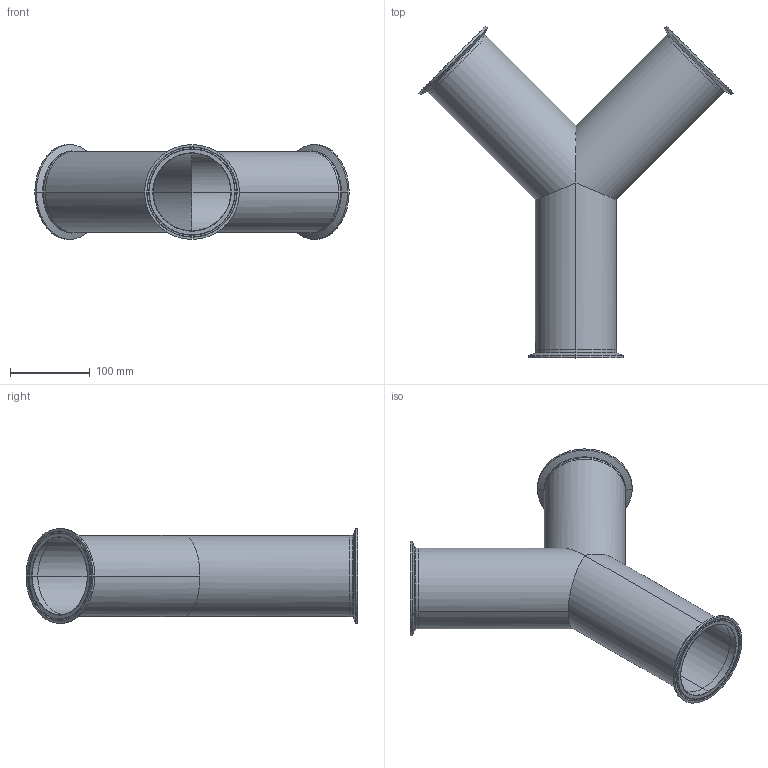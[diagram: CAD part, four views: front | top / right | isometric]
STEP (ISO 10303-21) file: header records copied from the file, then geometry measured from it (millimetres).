
FILE_DESCRIPTION (( 'STEP AP214' ), '1' );
FILE_NAME ('TEG28B6L4.0-...STEP', '2016-05-25T04:46:48', ( 'eran' ), ( '' ), 'SwSTEP 2.0', 'SolidWorks 2016', '' );
FILE_SCHEMA (( 'AUTOMOTIVE_DESIGN' ));
Length unit declared in the file: millimetre
Products named in the file (1): TEG28B6L4.0-..
Bounding box: 393.95 x 416.07 x 118.92 mm (x, y, z)
Volume: 433378 mm3; surface area: 396892.3 mm2
Topology: 4 solids, 4 shells, 90 faces, 200 edges, 120 vertices
Faces by surface type: cylinder 30, bspline 30, cone 18, plane 12
Entity records: 4501 total; most frequent: CARTESIAN_POINT 2523, DIRECTION 414, ORIENTED_EDGE 400, EDGE_CURVE 200, AXIS2_PLACEMENT_3D 183, CIRCLE 122, VERTEX_POINT 120, EDGE_LOOP 102
